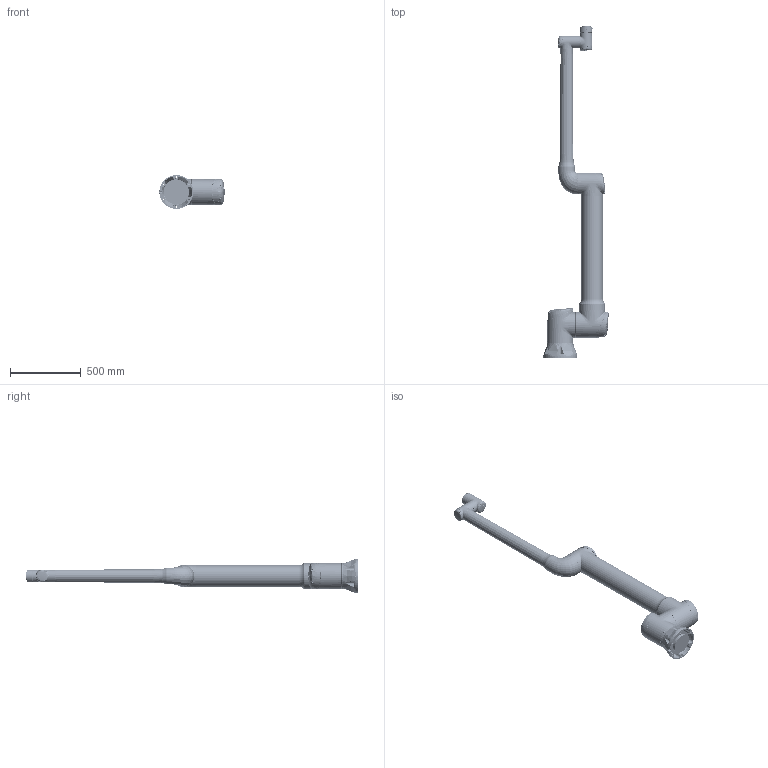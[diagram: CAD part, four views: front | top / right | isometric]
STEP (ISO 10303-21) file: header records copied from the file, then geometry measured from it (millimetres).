
FILE_DESCRIPTION (( 'STEP AP203' ), '1' );
FILE_NAME ('CS_掛极CS520H_V1.2.STEP', '2025-04-15T13:00:08', ( '' ), ( '' ), 'SwSTEP 2.0', 'SolidWorks 2017', '' );
FILE_SCHEMA (( 'CONFIG_CONTROL_DESIGN' ));
Products named in the file (7): CS520H-Base; CS_掛极CS520H_V1.2; CS520H-Link2; CS520H-Flange; CS520H-Link4; CS520H-Link1; CS520H-Link3
Assembly tree (6 placements, depth 2):
  CS_掛极CS520H_V1.2
    CS520H-Base
    CS520H-Link1
    CS520H-Link2
    CS520H-Link3
    CS520H-Link4
    CS520H-Flange
Bounding box: 460.8 x 2348.3 x 239.8 mm (x, y, z)
Volume: 38975045.1 mm3; surface area: 2524331.9 mm2
Topology: 54 solids, 126 shells, 9120 faces, 21846 edges, 12904 vertices
Faces by surface type: bspline 3379, plane 1928, cylinder 1638, cone 1251, torus 675, sphere 249
Entity records: 538058 total; most frequent: CARTESIAN_POINT 354858, ORIENTED_EDGE 42868, DIRECTION 31872, EDGE_CURVE 21436, AXIS2_PLACEMENT_3D 13633, VERTEX_POINT 12880, EDGE_LOOP 9619, FACE_OUTER_BOUND 9120
